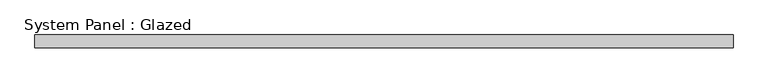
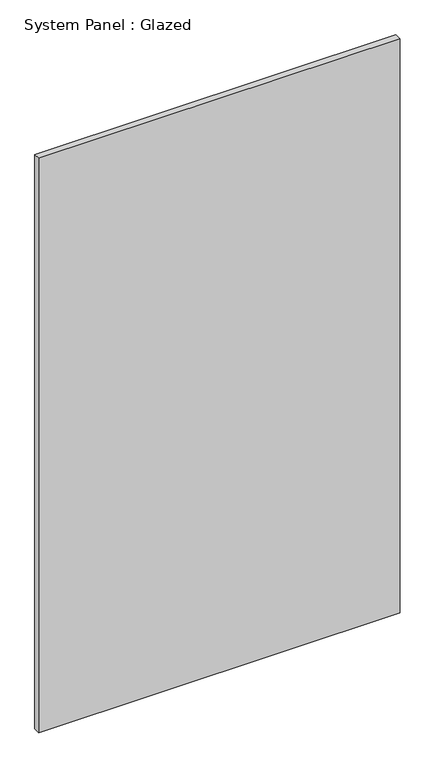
"""IFC4 building model written with IfcOpenShell, lengths in millimetres: plate geometry, System Panel : Glazed."""

from ifc_helpers import new_model, si_unit, origin, origin_with_axes, place, context, project, spatial, polyline, outline, extrude, source, transform, mapped, element, save


def system_panel_glazed_77da9935(model_context):
    return source(origin(), model_context, "Body", "SweptSolid", [
        extrude(outline(polyline([(691.5732572, 24.5), (-691.5732572, 24.5), (-691.5732572, 49.5), (691.5732572, 49.5), (691.5732572, 24.5)])), origin_with_axes(), (0.0, 0.0, 1.0), 2325.0),
    ])


if __name__ == "__main__":
    model = new_model("IFC4")
    model_context = context("Model", 3, world=origin())
    ifc_project = project(units=[si_unit("LENGTHUNIT", "METRE", prefix="MILLI")], contexts=[model_context])
    site = spatial("IfcSite", under=ifc_project)
    building = spatial("IfcBuilding", under=site)
    placement = place(None, origin())
    system_panel_glazed_shape = system_panel_glazed_77da9935(model_context)
    element("IfcPlate", 1, ObjectType="System Panel : Glazed", at=placement, inside=building, context=model_context, shape_type="MappedRepresentation", body=[
        mapped(system_panel_glazed_shape, transform((0.0, 0.0, 0.0), x_axis=(1.0, 0.0, 0.0), y_axis=(0.0, 1.0, 0.0), z_axis=(0.0, 0.0, 1.0))),
    ])
    save(model, "model.ifc")
